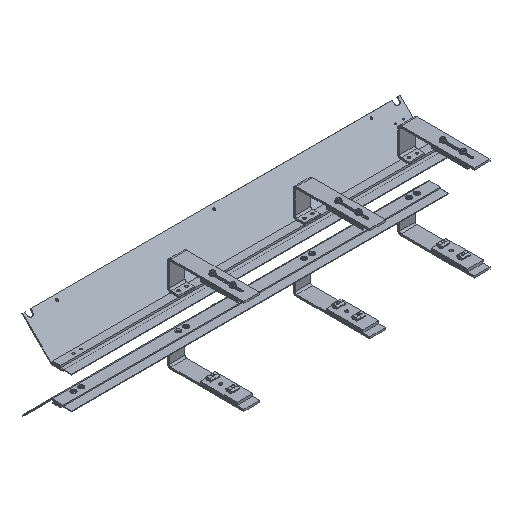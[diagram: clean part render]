
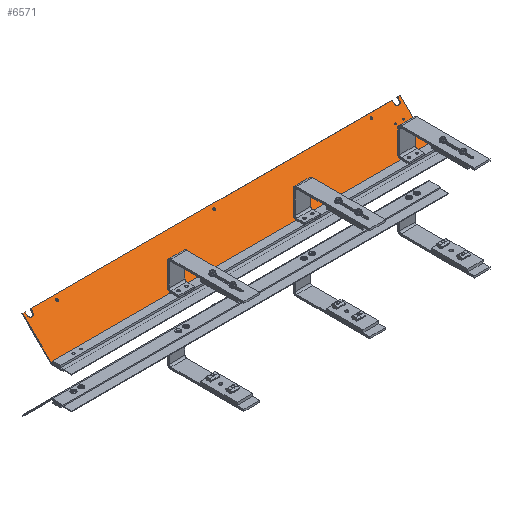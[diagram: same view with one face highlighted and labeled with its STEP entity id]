
A CAD part, isometric view. The second image highlights one B-rep face of the part: STEP entity #6571.
In plain terms, the highlighted planar face has unit normal (0, -0.707, 0.707).
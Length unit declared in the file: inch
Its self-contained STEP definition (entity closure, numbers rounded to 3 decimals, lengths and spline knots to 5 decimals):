
#5574=DIRECTION('',(1.,0.,0.));
#5575=VECTOR('',#5574,36.);
#5576=CARTESIAN_POINT('',(-36.,1.08655,-2.75135));
#5577=LINE('',#5576,#5575);
#5784=CARTESIAN_POINT('',(-35.5,3.65971,-0.17819));
#5785=DIRECTION('',(0.,-0.707,0.707));
#5786=DIRECTION('',(-1.,0.,0.));
#5787=AXIS2_PLACEMENT_3D('',#5784,#5785,#5786);
#5789=DIRECTION('',(0.,0.707,0.707));
#5790=VECTOR('',#5789,0.252);
#5791=CARTESIAN_POINT('',(-35.235,3.65971,-0.17819));
#5792=LINE('',#5791,#5790);
#5793=DIRECTION('',(1.,0.,0.));
#5794=VECTOR('',#5793,34.47);
#5795=CARTESIAN_POINT('',(-35.235,3.8379,0.));
#5796=LINE('',#5795,#5794);
#5797=CARTESIAN_POINT('',(-0.5,3.65971,-0.17819));
#5798=DIRECTION('',(0.,-0.707,0.707));
#5799=DIRECTION('',(-1.,0.,0.));
#5800=AXIS2_PLACEMENT_3D('',#5797,#5798,#5799);
#5802=DIRECTION('',(0.,0.707,0.707));
#5803=VECTOR('',#5802,0.252);
#5804=CARTESIAN_POINT('',(-0.235,3.65971,-0.17819));
#5805=LINE('',#5804,#5803);
#5806=DIRECTION('',(1.,0.,0.));
#5807=VECTOR('',#5806,0.235);
#5808=CARTESIAN_POINT('',(-0.235,3.8379,0.));
#5809=LINE('',#5808,#5807);
#5810=DIRECTION('',(0.,0.707,0.707));
#5811=VECTOR('',#5810,3.891);
#5812=CARTESIAN_POINT('',(-36.,1.08655,-2.75135));
#5813=LINE('',#5812,#5811);
#5814=DIRECTION('',(1.,0.,0.));
#5815=VECTOR('',#5814,0.235);
#5816=CARTESIAN_POINT('',(-36.,3.8379,0.));
#5817=LINE('',#5816,#5815);
#5818=CARTESIAN_POINT('',(-18.,3.57274,-0.26517));
#5819=DIRECTION('',(0.,-0.707,0.707));
#5820=DIRECTION('',(-1.,0.,0.));
#5821=AXIS2_PLACEMENT_3D('',#5818,#5819,#5820);
#5823=CARTESIAN_POINT('',(-18.,3.57274,-0.26517));
#5824=DIRECTION('',(0.,-0.707,0.707));
#5825=DIRECTION('',(1.,0.,0.));
#5826=AXIS2_PLACEMENT_3D('',#5823,#5824,#5825);
#5828=CARTESIAN_POINT('',(-33.,3.57274,-0.26517));
#5829=DIRECTION('',(0.,-0.707,0.707));
#5830=DIRECTION('',(-1.,0.,0.));
#5831=AXIS2_PLACEMENT_3D('',#5828,#5829,#5830);
#5833=CARTESIAN_POINT('',(-33.,3.57274,-0.26517));
#5834=DIRECTION('',(0.,-0.707,0.707));
#5835=DIRECTION('',(1.,0.,0.));
#5836=AXIS2_PLACEMENT_3D('',#5833,#5834,#5835);
#5838=CARTESIAN_POINT('',(-3.,3.57274,-0.26517));
#5839=DIRECTION('',(0.,-0.707,0.707));
#5840=DIRECTION('',(-1.,0.,0.));
#5841=AXIS2_PLACEMENT_3D('',#5838,#5839,#5840);
#5843=CARTESIAN_POINT('',(-3.,3.57274,-0.26517));
#5844=DIRECTION('',(0.,-0.707,0.707));
#5845=DIRECTION('',(1.,0.,0.));
#5846=AXIS2_PLACEMENT_3D('',#5843,#5844,#5845);
#5848=CARTESIAN_POINT('',(-0.75,2.77724,-1.06066));
#5849=DIRECTION('',(0.,-0.707,0.707));
#5850=DIRECTION('',(0.,-0.707,-0.707));
#5851=AXIS2_PLACEMENT_3D('',#5848,#5849,#5850);
#5853=CARTESIAN_POINT('',(-0.75,2.77724,-1.06066));
#5854=DIRECTION('',(0.,-0.707,0.707));
#5855=DIRECTION('',(0.,0.707,0.707));
#5856=AXIS2_PLACEMENT_3D('',#5853,#5854,#5855);
#5858=CARTESIAN_POINT('',(-1.5,2.77724,-1.06066));
#5859=DIRECTION('',(0.,-0.707,0.707));
#5860=DIRECTION('',(0.,-0.707,-0.707));
#5861=AXIS2_PLACEMENT_3D('',#5858,#5859,#5860);
#5863=CARTESIAN_POINT('',(-1.5,2.77724,-1.06066));
#5864=DIRECTION('',(0.,-0.707,0.707));
#5865=DIRECTION('',(0.,0.707,0.707));
#5866=AXIS2_PLACEMENT_3D('',#5863,#5864,#5865);
#5880=DIRECTION('',(0.,0.707,0.707));
#5881=VECTOR('',#5880,0.252);
#5882=CARTESIAN_POINT('',(-0.765,3.65971,-0.17819));
#5883=LINE('',#5882,#5881);
#5912=DIRECTION('',(0.,0.707,0.707));
#5913=VECTOR('',#5912,3.891);
#5914=CARTESIAN_POINT('',(0.,1.08655,-2.75135));
#5915=LINE('',#5914,#5913);
#5932=DIRECTION('',(0.,0.707,0.707));
#5933=VECTOR('',#5932,0.252);
#5934=CARTESIAN_POINT('',(-35.765,3.65971,-0.17819));
#5935=LINE('',#5934,#5933);
#6124=CARTESIAN_POINT('',(0.,1.08655,-2.75135));
#6125=VERTEX_POINT('',#6124);
#6128=CARTESIAN_POINT('',(-36.,1.08655,-2.75135));
#6129=VERTEX_POINT('',#6128);
#6172=CARTESIAN_POINT('',(-35.765,3.65971,-0.17819));
#6173=CARTESIAN_POINT('',(-35.235,3.65971,-0.17819));
#6174=VERTEX_POINT('',#6172);
#6175=VERTEX_POINT('',#6173);
#6176=CARTESIAN_POINT('',(-35.235,3.8379,0.));
#6177=VERTEX_POINT('',#6176);
#6178=CARTESIAN_POINT('',(-0.765,3.8379,0.));
#6179=VERTEX_POINT('',#6178);
#6180=CARTESIAN_POINT('',(-0.765,3.65971,-0.17819));
#6181=VERTEX_POINT('',#6180);
#6182=CARTESIAN_POINT('',(-0.235,3.65971,-0.17819));
#6183=VERTEX_POINT('',#6182);
#6184=CARTESIAN_POINT('',(-0.235,3.8379,0.));
#6185=VERTEX_POINT('',#6184);
#6186=CARTESIAN_POINT('',(0.,3.8379,0.));
#6187=VERTEX_POINT('',#6186);
#6188=CARTESIAN_POINT('',(-36.,3.8379,0.));
#6189=VERTEX_POINT('',#6188);
#6190=CARTESIAN_POINT('',(-35.765,3.8379,0.));
#6191=VERTEX_POINT('',#6190);
#6192=CARTESIAN_POINT('',(-18.11,3.57274,-0.26517));
#6193=CARTESIAN_POINT('',(-17.89,3.57274,-0.26517));
#6194=VERTEX_POINT('',#6192);
#6195=VERTEX_POINT('',#6193);
#6196=CARTESIAN_POINT('',(-33.11,3.57274,-0.26517));
#6197=CARTESIAN_POINT('',(-32.89,3.57274,-0.26517));
#6198=VERTEX_POINT('',#6196);
#6199=VERTEX_POINT('',#6197);
#6200=CARTESIAN_POINT('',(-3.11,3.57274,-0.26517));
#6201=CARTESIAN_POINT('',(-2.89,3.57274,-0.26517));
#6202=VERTEX_POINT('',#6200);
#6203=VERTEX_POINT('',#6201);
#6204=CARTESIAN_POINT('',(-0.75,2.73548,-1.10242));
#6205=CARTESIAN_POINT('',(-0.75,2.819,-1.0189));
#6206=VERTEX_POINT('',#6204);
#6207=VERTEX_POINT('',#6205);
#6208=CARTESIAN_POINT('',(-1.5,2.73548,-1.10242));
#6209=CARTESIAN_POINT('',(-1.5,2.819,-1.0189));
#6210=VERTEX_POINT('',#6208);
#6211=VERTEX_POINT('',#6209);
#6512=CARTESIAN_POINT('',(0.,3.8379,0.));
#6513=DIRECTION('',(0.,-0.707,0.707));
#6514=DIRECTION('',(0.,-0.707,-0.707));
#6515=AXIS2_PLACEMENT_3D('',#6512,#6513,#6514);
#6516=PLANE('',#6515);
#6517=ORIENTED_EDGE('',*,*,#6502,.T.);
#6519=ORIENTED_EDGE('',*,*,#6518,.T.);
#6521=ORIENTED_EDGE('',*,*,#6520,.T.);
#6523=ORIENTED_EDGE('',*,*,#6522,.F.);
#6525=ORIENTED_EDGE('',*,*,#6524,.T.);
#6527=ORIENTED_EDGE('',*,*,#6526,.T.);
#6529=ORIENTED_EDGE('',*,*,#6528,.T.);
#6531=ORIENTED_EDGE('',*,*,#6530,.F.);
#6532=ORIENTED_EDGE('',*,*,#6315,.F.);
#6534=ORIENTED_EDGE('',*,*,#6533,.T.);
#6536=ORIENTED_EDGE('',*,*,#6535,.T.);
#6538=ORIENTED_EDGE('',*,*,#6537,.F.);
#6539=EDGE_LOOP('',(#6517,#6519,#6521,#6523,#6525,#6527,#6529,#6531,#6532,#6534,
#6536,#6538));
#6540=FACE_OUTER_BOUND('',#6539,.F.);
#6542=ORIENTED_EDGE('',*,*,#6541,.T.);
#6544=ORIENTED_EDGE('',*,*,#6543,.T.);
#6545=EDGE_LOOP('',(#6542,#6544));
#6546=FACE_BOUND('',#6545,.F.);
#6548=ORIENTED_EDGE('',*,*,#6547,.T.);
#6550=ORIENTED_EDGE('',*,*,#6549,.T.);
#6551=EDGE_LOOP('',(#6548,#6550));
#6552=FACE_BOUND('',#6551,.F.);
#6554=ORIENTED_EDGE('',*,*,#6553,.T.);
#6556=ORIENTED_EDGE('',*,*,#6555,.T.);
#6557=EDGE_LOOP('',(#6554,#6556));
#6558=FACE_BOUND('',#6557,.F.);
#6560=ORIENTED_EDGE('',*,*,#6559,.T.);
#6562=ORIENTED_EDGE('',*,*,#6561,.T.);
#6563=EDGE_LOOP('',(#6560,#6562));
#6564=FACE_BOUND('',#6563,.F.);
#6566=ORIENTED_EDGE('',*,*,#6565,.T.);
#6568=ORIENTED_EDGE('',*,*,#6567,.T.);
#6569=EDGE_LOOP('',(#6566,#6568));
#6570=FACE_BOUND('',#6569,.F.);
#5788=CIRCLE('',#5787,0.265);
#5801=CIRCLE('',#5800,0.265);
#5822=CIRCLE('',#5821,0.11);
#5827=CIRCLE('',#5826,0.11);
#5832=CIRCLE('',#5831,0.11);
#5837=CIRCLE('',#5836,0.11);
#5842=CIRCLE('',#5841,0.11);
#5847=CIRCLE('',#5846,0.11);
#5852=CIRCLE('',#5851,0.05906);
#5857=CIRCLE('',#5856,0.05906);
#5862=CIRCLE('',#5861,0.05906);
#5867=CIRCLE('',#5866,0.05906);
#6315=EDGE_CURVE('',#6129,#6125,#5577,.T.);
#6502=EDGE_CURVE('',#6174,#6175,#5788,.T.);
#6518=EDGE_CURVE('',#6175,#6177,#5792,.T.);
#6520=EDGE_CURVE('',#6177,#6179,#5796,.T.);
#6522=EDGE_CURVE('',#6181,#6179,#5883,.T.);
#6524=EDGE_CURVE('',#6181,#6183,#5801,.T.);
#6526=EDGE_CURVE('',#6183,#6185,#5805,.T.);
#6528=EDGE_CURVE('',#6185,#6187,#5809,.T.);
#6530=EDGE_CURVE('',#6125,#6187,#5915,.T.);
#6533=EDGE_CURVE('',#6129,#6189,#5813,.T.);
#6535=EDGE_CURVE('',#6189,#6191,#5817,.T.);
#6537=EDGE_CURVE('',#6174,#6191,#5935,.T.);
#6541=EDGE_CURVE('',#6194,#6195,#5822,.T.);
#6543=EDGE_CURVE('',#6195,#6194,#5827,.T.);
#6547=EDGE_CURVE('',#6198,#6199,#5832,.T.);
#6549=EDGE_CURVE('',#6199,#6198,#5837,.T.);
#6553=EDGE_CURVE('',#6202,#6203,#5842,.T.);
#6555=EDGE_CURVE('',#6203,#6202,#5847,.T.);
#6559=EDGE_CURVE('',#6206,#6207,#5852,.T.);
#6561=EDGE_CURVE('',#6207,#6206,#5857,.T.);
#6565=EDGE_CURVE('',#6210,#6211,#5862,.T.);
#6567=EDGE_CURVE('',#6211,#6210,#5867,.T.);
#6571=ADVANCED_FACE('',(#6540,#6546,#6552,#6558,#6564,#6570),#6516,.T.);
